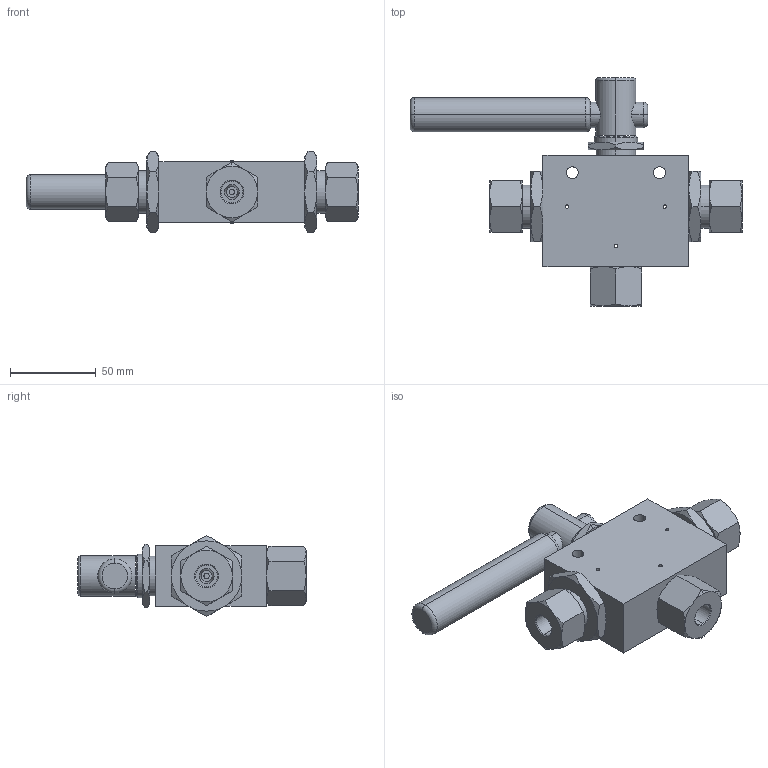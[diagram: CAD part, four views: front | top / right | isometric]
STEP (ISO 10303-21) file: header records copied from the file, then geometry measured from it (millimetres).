
FILE_DESCRIPTION (( 'STEP AP203' ), '1' );
FILE_NAME ('BV1505S04-3-180.STEP', '2022-04-07T10:00:12', ( '' ), ( '' ), 'SwSTEP 2.0', 'SolidWorks 2020', '' );
FILE_SCHEMA (( 'CONFIG_CONTROL_DESIGN' ));
Length unit declared in the file: millimetre
Products named in the file (1): BV1505S04-3-180
Bounding box: 193.5 x 133 x 47.34 mm (x, y, z)
Volume: 313003.3 mm3; surface area: 48514.9 mm2
Topology: 1 solids, 1 shells, 219 faces, 480 edges, 284 vertices
Faces by surface type: cone 90, plane 71, cylinder 50, torus 8
Entity records: 6891 total; most frequent: CARTESIAN_POINT 2140, DIRECTION 972, ORIENTED_EDGE 960, EDGE_CURVE 480, AXIS2_PLACEMENT_3D 424, VERTEX_POINT 284, EDGE_LOOP 254, ADVANCED_FACE 219
